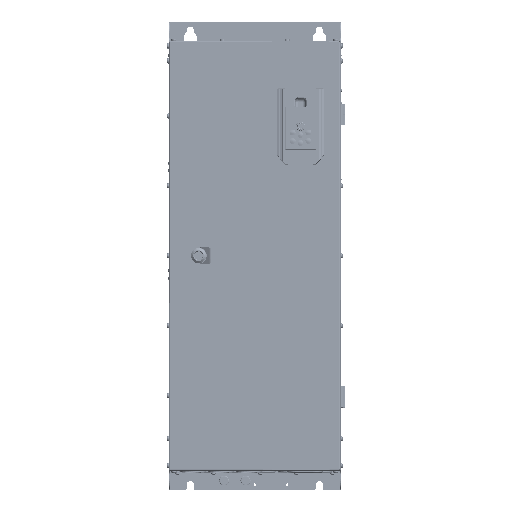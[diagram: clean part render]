
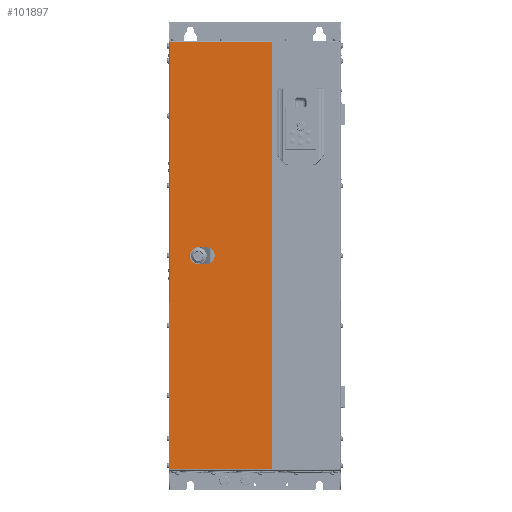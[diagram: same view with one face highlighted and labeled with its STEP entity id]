
A CAD part, top view. The second image highlights one B-rep face of the part: STEP entity #101897.
In plain terms, the highlighted planar face has unit normal (0, 0, 1).
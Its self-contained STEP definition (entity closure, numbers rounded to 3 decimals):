
#100028=DIRECTION('',(0.,-1.,0.));
#100029=VECTOR('',#100028,795.05);
#100030=CARTESIAN_POINT('',(-157.25,797.75,10.5));
#100031=LINE('',#100030,#100029);
#100368=DIRECTION('',(1.,0.,0.));
#100369=VECTOR('',#100368,189.25);
#100370=CARTESIAN_POINT('',(-157.25,2.7,10.5));
#100371=LINE('',#100370,#100369);
#100397=DIRECTION('',(1.,0.,0.));
#100398=VECTOR('',#100397,12.052);
#100399=CARTESIAN_POINT('',(-110.526,409.5,10.5));
#100400=LINE('',#100399,#100398);
#100404=CARTESIAN_POINT('',(-104.5,400.,10.5));
#100405=DIRECTION('',(0.,0.,1.));
#100406=DIRECTION('',(-0.536,0.844,0.));
#100407=AXIS2_PLACEMENT_3D('',#100404,#100405,#100406);
#100412=DIRECTION('',(0.,1.,0.));
#100413=VECTOR('',#100412,12.052);
#100414=CARTESIAN_POINT('',(-114.,393.974,10.5));
#100415=LINE('',#100414,#100413);
#100419=CARTESIAN_POINT('',(-104.5,400.,10.5));
#100420=DIRECTION('',(0.,0.,1.));
#100421=DIRECTION('',(-0.844,-0.536,0.));
#100422=AXIS2_PLACEMENT_3D('',#100419,#100420,#100421);
#100427=DIRECTION('',(-1.,0.,0.));
#100428=VECTOR('',#100427,12.052);
#100429=CARTESIAN_POINT('',(-98.474,390.5,10.5));
#100430=LINE('',#100429,#100428);
#100434=CARTESIAN_POINT('',(-104.5,400.,10.5));
#100435=DIRECTION('',(0.,0.,1.));
#100436=DIRECTION('',(0.536,-0.844,0.));
#100437=AXIS2_PLACEMENT_3D('',#100434,#100435,#100436);
#100442=DIRECTION('',(0.,-1.,0.));
#100443=VECTOR('',#100442,12.052);
#100444=CARTESIAN_POINT('',(-95.,406.026,10.5));
#100445=LINE('',#100444,#100443);
#100449=CARTESIAN_POINT('',(-104.5,400.,10.5));
#100450=DIRECTION('',(0.,0.,1.));
#100451=DIRECTION('',(0.844,0.536,0.));
#100452=AXIS2_PLACEMENT_3D('',#100449,#100450,#100451);
#100457=DIRECTION('',(0.,-1.,0.));
#100458=VECTOR('',#100457,795.05);
#100459=CARTESIAN_POINT('',(32.,797.75,10.5));
#100460=LINE('',#100459,#100458);
#100542=DIRECTION('',(1.,0.,0.));
#100543=VECTOR('',#100542,189.25);
#100544=CARTESIAN_POINT('',(-157.25,797.75,10.5));
#100545=LINE('',#100544,#100543);
#101268=CARTESIAN_POINT('',(-157.25,797.75,10.5));
#101269=CARTESIAN_POINT('',(-157.25,2.7,10.5));
#101270=VERTEX_POINT('',#101268);
#101271=VERTEX_POINT('',#101269);
#101381=CARTESIAN_POINT('',(-110.526,409.5,10.5));
#101382=CARTESIAN_POINT('',(-98.474,409.5,10.5));
#101383=VERTEX_POINT('',#101381);
#101384=VERTEX_POINT('',#101382);
#101385=CARTESIAN_POINT('',(-95.,406.026,10.5));
#101386=VERTEX_POINT('',#101385);
#101387=CARTESIAN_POINT('',(-95.,393.974,10.5));
#101388=VERTEX_POINT('',#101387);
#101389=CARTESIAN_POINT('',(-98.474,390.5,10.5));
#101390=VERTEX_POINT('',#101389);
#101391=CARTESIAN_POINT('',(-110.526,390.5,10.5));
#101392=VERTEX_POINT('',#101391);
#101393=CARTESIAN_POINT('',(-114.,393.974,10.5));
#101394=VERTEX_POINT('',#101393);
#101395=CARTESIAN_POINT('',(-114.,406.026,10.5));
#101396=VERTEX_POINT('',#101395);
#101413=CARTESIAN_POINT('',(32.,797.75,10.5));
#101414=CARTESIAN_POINT('',(32.,2.7,10.5));
#101415=VERTEX_POINT('',#101413);
#101416=VERTEX_POINT('',#101414);
#101867=CARTESIAN_POINT('',(-159.5,800.,10.5));
#101868=DIRECTION('',(0.,0.,1.));
#101869=DIRECTION('',(0.,-1.,0.));
#101870=AXIS2_PLACEMENT_3D('',#101867,#101868,#101869);
#101871=PLANE('',#101870);
#101872=ORIENTED_EDGE('',*,*,#101858,.T.);
#101873=ORIENTED_EDGE('',*,*,#101809,.F.);
#101874=ORIENTED_EDGE('',*,*,#101569,.F.);
#101876=ORIENTED_EDGE('',*,*,#101875,.T.);
#101877=EDGE_LOOP('',(#101872,#101873,#101874,#101876));
#101878=FACE_OUTER_BOUND('',#101877,.F.);
#101880=ORIENTED_EDGE('',*,*,#101879,.F.);
#101882=ORIENTED_EDGE('',*,*,#101881,.T.);
#101884=ORIENTED_EDGE('',*,*,#101883,.F.);
#101886=ORIENTED_EDGE('',*,*,#101885,.T.);
#101888=ORIENTED_EDGE('',*,*,#101887,.F.);
#101890=ORIENTED_EDGE('',*,*,#101889,.T.);
#101892=ORIENTED_EDGE('',*,*,#101891,.F.);
#101894=ORIENTED_EDGE('',*,*,#101893,.T.);
#101895=EDGE_LOOP('',(#101880,#101882,#101884,#101886,#101888,#101890,#101892,
#101894));
#101896=FACE_BOUND('',#101895,.F.);
#101897=ADVANCED_FACE('',(#101878,#101896),#101871,.T.);
#100408=CIRCLE('',#100407,11.25);
#100423=CIRCLE('',#100422,11.25);
#100438=CIRCLE('',#100437,11.25);
#100453=CIRCLE('',#100452,11.25);
#101569=EDGE_CURVE('',#101270,#101271,#100031,.T.);
#101809=EDGE_CURVE('',#101271,#101416,#100371,.T.);
#101858=EDGE_CURVE('',#101415,#101416,#100460,.T.);
#101875=EDGE_CURVE('',#101270,#101415,#100545,.T.);
#101879=EDGE_CURVE('',#101383,#101384,#100400,.T.);
#101881=EDGE_CURVE('',#101383,#101396,#100408,.T.);
#101883=EDGE_CURVE('',#101394,#101396,#100415,.T.);
#101885=EDGE_CURVE('',#101394,#101392,#100423,.T.);
#101887=EDGE_CURVE('',#101390,#101392,#100430,.T.);
#101889=EDGE_CURVE('',#101390,#101388,#100438,.T.);
#101891=EDGE_CURVE('',#101386,#101388,#100445,.T.);
#101893=EDGE_CURVE('',#101386,#101384,#100453,.T.);
